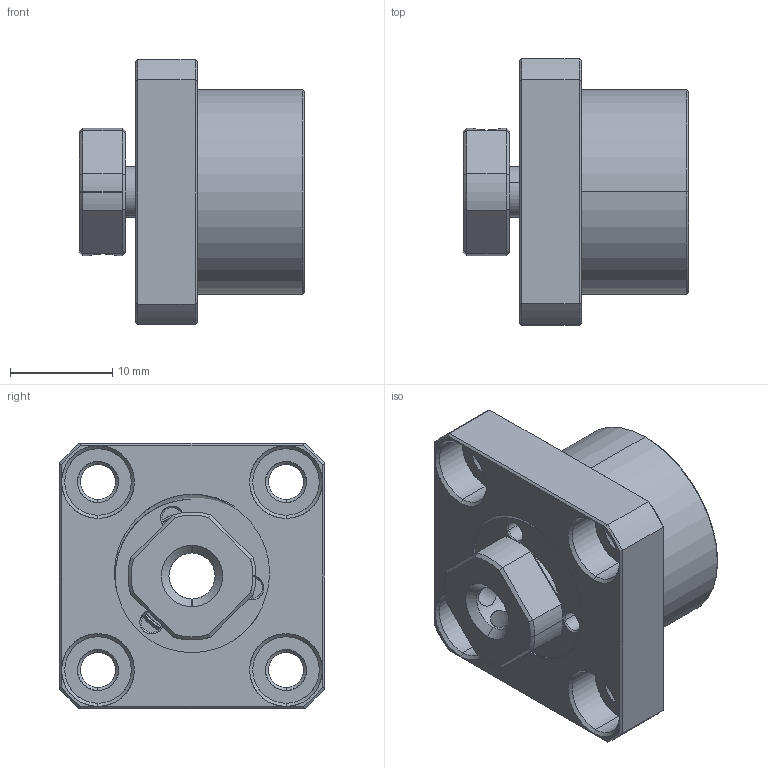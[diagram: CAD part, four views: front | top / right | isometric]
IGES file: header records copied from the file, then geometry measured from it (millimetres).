
Start section: SolidWorks IGES file using analytic representation for surfaces
Bounding box: 22 x 26 x 26 mm (x, y, z)
Surface area: 4072.6 mm2 (no closed solid volume)
Topology: 0 solids, 0 shells, 171 faces, 2156 edges, 2156 vertices
Faces by surface type: revolution 120, bspline 51
